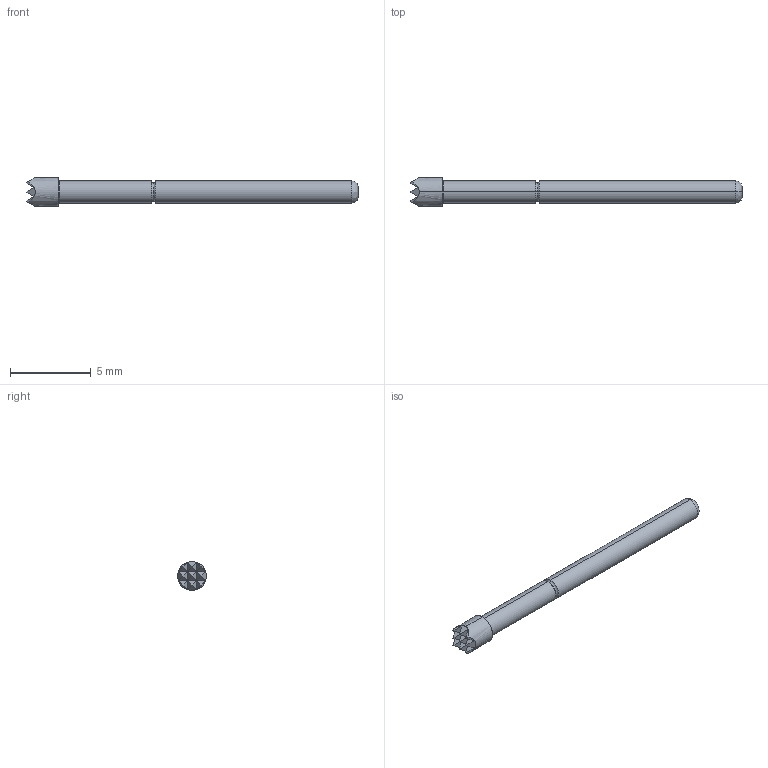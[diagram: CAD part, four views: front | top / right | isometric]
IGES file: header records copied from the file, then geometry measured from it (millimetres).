
Start section: SolidWorks IGES file using analytic representation for surfaces
Global section: file name: O:\PYLON\IGES FILES\P3158\P3158G-1W1S FULL.IGS; native system: SolidWorks 2015; preprocessor: SolidWorks 2015; author: kgolden; date: 171020.072724; units: inch
Bounding box: 20.6 x 1.78 x 1.78 mm (x, y, z)
Surface area: 102.5 mm2 (no closed solid volume)
Topology: 0 solids, 0 shells, 47 faces, 302 edges, 302 vertices
Faces by surface type: bspline 37, revolution 10
